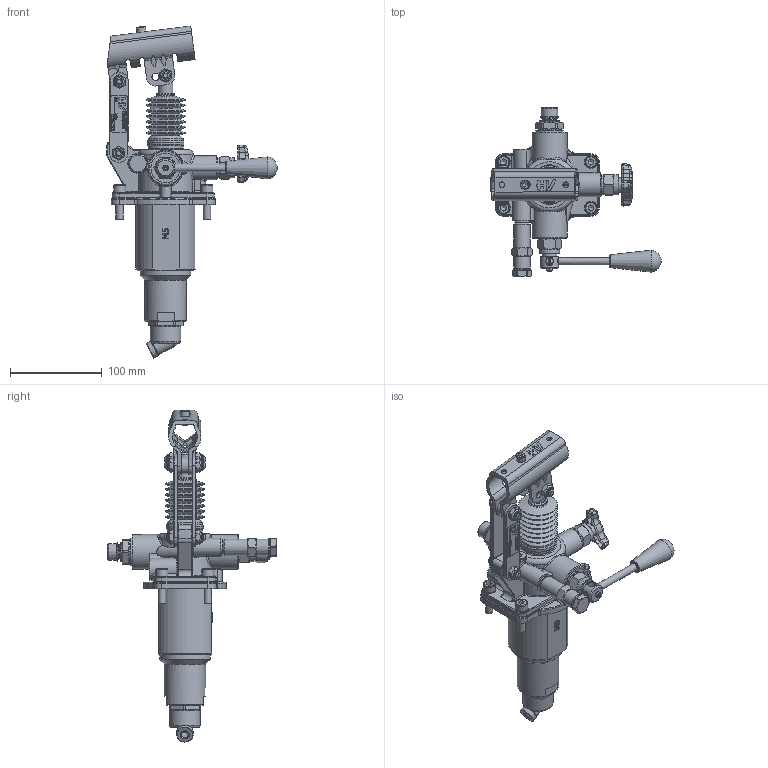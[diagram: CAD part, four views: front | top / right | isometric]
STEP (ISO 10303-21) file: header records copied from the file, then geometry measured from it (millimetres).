
FILE_DESCRIPTION((''),'2;1');
FILE_NAME('G:\HV_HYDRAULIC\AZIENDA_HV_HYDRAULIC\ARCHIVIO_DISEGNI\5_PRODOTTI_FINITI\1_POMPE_MANUALI\6071_PM2V_5-80\6071.0129_PM2V_5-80_Lm-pm-s_(HV)\6071.0129.stp','2024-03-29T10:51:47',('christian.scardovi'),(''),'Autodesk Inventor 2013','Autodesk Inventor 2013','');
FILE_SCHEMA(('AUTOMOTIVE_DESIGN { 1 0 10303 214 1 1 1 1 }'));
Length unit declared in the file: millimetre
Products named in the file (1): 6071.0129
Bounding box: 185.42 x 183.5 x 361.27 mm (x, y, z)
Volume: 795907.2 mm3; surface area: 186132.6 mm2
Topology: 3 solids, 3 shells, 1917 faces, 4863 edges, 3043 vertices
Faces by surface type: plane 807, cylinder 430, bspline 314, cone 191, torus 160, sphere 15
Full cylindrical faces by diameter (mm): 2 x1, 3 x6, 4 x1, 4.917 x1, 5 x10, 6 x5, 6.5 x3, 8 x19, 8.566 x1, 8.917 x1, 9 x2, 9.2 x1, 10 x3, 11 x3, 11.05 x6, 11.445 x1, 12 x5, 13 x4, 13.2 x1, 14 x6, 14.95 x2, 15 x1, 16 x4, 16.6 x1, 18 x8, 18.631 x1, 19 x1, 20 x5, 21 x1, 21.8 x4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
Entity records: 68245 total; most frequent: CARTESIAN_POINT 24312, ORIENTED_EDGE 8836, DIRECTION 7971, EDGE_CURVE 4418, AXIS2_PLACEMENT_3D 2930, VERTEX_POINT 2921, EDGE_LOOP 2369, VECTOR 2111
